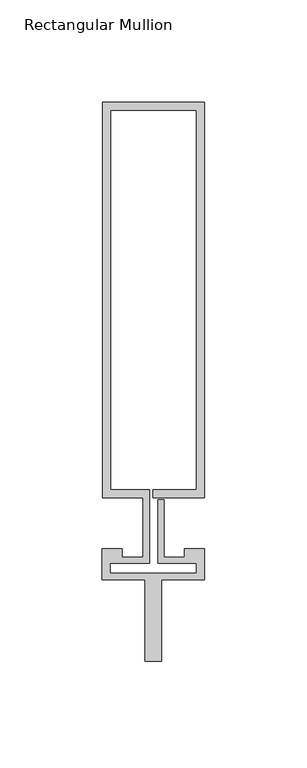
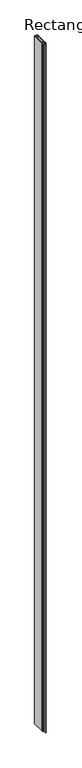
"""IFC4 building model written with IfcOpenShell, lengths in millimetres: member geometry, Rectangular Mullion : Reynaers_CW-50_Mullion-Transom_Horizontal_193.4mm_Facecap-06B."""

from ifc_helpers import new_model, si_unit, frame, origin, place, context, project, spatial, polyline, outline, extrude, source, transform, mapped, element, save


def rectangular_mullion_c9536558(model_context):
    return source(origin(), model_context, "Body", "SweptSolid", [
        extrude(outline(polyline([(-24.8004059, 205.9), (25.1995941, 205.9), (25.1995941, 12.5), (0.0, 12.5), (0.0, 16.5), (21.1995941, 16.5), (21.1995941, 201.9), (-20.8004059, 201.9), (-20.8004059, 16.5), (-1.9004059, 16.5), (-1.9004059, -19.5), (-20.994845, -19.5), (-20.994845, -24.4191338), (21.1995941, -24.4191338), (21.1995941, -19.5), (2.2995941, -19.5), (2.2995941, 11.5), (5.2995941, 11.5), (5.2995941, -16.5), (15.2996495, -16.5), (15.2996495, -12.5), (25.1995941, -12.5), (25.1995941, -27.5), (4.004855, -27.5), (4.004855, -67.5), (-3.995145, -67.5), (-3.995145, -27.5), (-24.994845, -27.5), (-24.994845, -12.5), (-15.2996495, -12.5), (-15.2996495, -16.5), (-4.9004059, -16.5), (-4.9004059, 12.5), (-24.8004059, 12.5), (-24.8004059, 205.9)])), frame((0.0, 0.0, -12000.0), z_axis=(0.0, 0.0, 1.0), x_axis=(1.0, 0.0, 0.0)), (0.0, 0.0, 1.0), 12000.0),
    ])


if __name__ == "__main__":
    model = new_model("IFC4")
    model_context = context("Model", 3, world=origin())
    ifc_project = project(units=[si_unit("LENGTHUNIT", "METRE", prefix="MILLI")], contexts=[model_context])
    site = spatial("IfcSite", under=ifc_project)
    building = spatial("IfcBuilding", under=site)
    placement = place(None, origin())
    rectangular_mullion_shape = rectangular_mullion_c9536558(model_context)
    element("IfcMember", 1, ObjectType="Rectangular Mullion : Reynaers_CW-50_Mullion-Transom_Horizontal_193.4mm_Facecap-06B", at=placement, inside=building, context=model_context, shape_type="MappedRepresentation", body=[
        mapped(rectangular_mullion_shape, transform((0.0, 0.0, 0.0), x_axis=(1.0, 0.0, 0.0), y_axis=(0.0, 1.0, 0.0), z_axis=(0.0, 0.0, 1.0))),
    ])
    save(model, "model.ifc")
